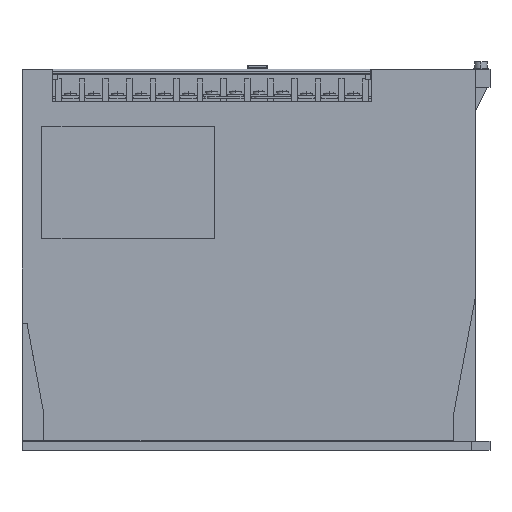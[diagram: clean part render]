
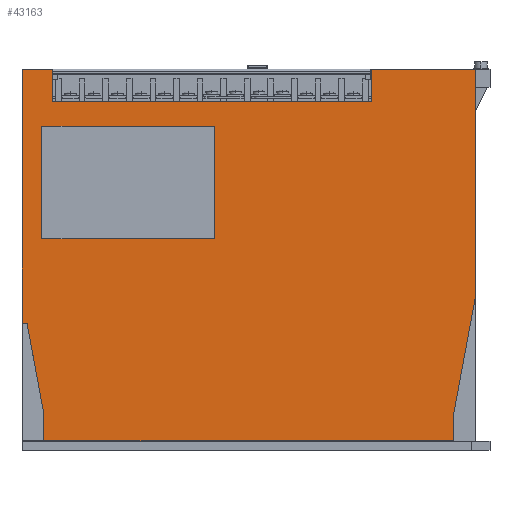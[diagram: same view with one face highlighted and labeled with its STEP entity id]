
A CAD part, left-side view. The second image highlights one B-rep face of the part: STEP entity #43163.
In plain terms, the highlighted planar face has unit normal (-1, 0, 0).
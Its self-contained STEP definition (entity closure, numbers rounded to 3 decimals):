
#1373=DIRECTION('',(0.,0.,1.));
#1374=VECTOR('',#1373,125.);
#1375=CARTESIAN_POINT('',(0.,0.,85.));
#1376=LINE('',#1375,#1374);
#1417=DIRECTION('',(0.,1.,0.));
#1418=VECTOR('',#1417,57.4);
#1419=CARTESIAN_POINT('',(0.,0.,210.));
#1420=LINE('',#1419,#1418);
#1425=DIRECTION('',(0.,1.,0.));
#1426=VECTOR('',#1425,16.7);
#1427=CARTESIAN_POINT('',(0.,233.3,210.));
#1428=LINE('',#1427,#1426);
#5065=DIRECTION('',(0.,0.,-1.));
#5066=VECTOR('',#5065,140.);
#5067=CARTESIAN_POINT('',(0.,250.,210.));
#5068=LINE('',#5067,#5066);
#5097=DIRECTION('',(0.,-1.,0.));
#5098=VECTOR('',#5097,226.);
#5099=CARTESIAN_POINT('',(0.,238.,5.1));
#5100=LINE('',#5099,#5098);
#6429=DIRECTION('',(0.,0.,1.));
#6430=VECTOR('',#6429,14.9);
#6431=CARTESIAN_POINT('',(0.,238.,5.1));
#6432=LINE('',#6431,#6430);
#6433=DIRECTION('',(0.,0.182,0.983));
#6434=VECTOR('',#6433,50.746);
#6435=CARTESIAN_POINT('',(0.,238.,20.));
#6436=LINE('',#6435,#6434);
#6437=DIRECTION('',(0.,0.999,0.035));
#6438=VECTOR('',#6437,2.789);
#6439=CARTESIAN_POINT('',(0.,247.213,69.903));
#6440=LINE('',#6439,#6438);
#6441=DIRECTION('',(0.,-1.,0.));
#6442=VECTOR('',#6441,175.9);
#6443=CARTESIAN_POINT('',(0.,233.3,192.157));
#6444=LINE('',#6443,#6442);
#6445=DIRECTION('',(0.,0.,1.));
#6446=VECTOR('',#6445,17.843);
#6447=CARTESIAN_POINT('',(0.,57.4,192.157));
#6448=LINE('',#6447,#6446);
#6449=DIRECTION('',(0.,0.182,-0.983));
#6450=VECTOR('',#6449,66.098);
#6451=CARTESIAN_POINT('',(0.,0.,85.));
#6452=LINE('',#6451,#6450);
#6453=DIRECTION('',(0.,0.,-1.));
#6454=VECTOR('',#6453,14.9);
#6455=CARTESIAN_POINT('',(0.,12.,20.));
#6456=LINE('',#6455,#6454);
#6457=DIRECTION('',(0.,-1.,0.));
#6458=VECTOR('',#6457,95.);
#6459=CARTESIAN_POINT('',(0.,239.,116.5));
#6460=LINE('',#6459,#6458);
#6508=DIRECTION('',(0.,0.,1.));
#6509=VECTOR('',#6508,17.843);
#6510=CARTESIAN_POINT('',(0.,233.3,192.157));
#6511=LINE('',#6510,#6509);
#13551=DIRECTION('',(0.,0.,1.));
#13552=VECTOR('',#13551,62.);
#13553=CARTESIAN_POINT('',(0.,239.,116.5));
#13554=LINE('',#13553,#13552);
#13559=DIRECTION('',(0.,-1.,0.));
#13560=VECTOR('',#13559,95.);
#13561=CARTESIAN_POINT('',(0.,239.,178.5));
#13562=LINE('',#13561,#13560);
#13567=DIRECTION('',(0.,0.,-1.));
#13568=VECTOR('',#13567,62.);
#13569=CARTESIAN_POINT('',(0.,144.,178.5));
#13570=LINE('',#13569,#13568);
#24996=CARTESIAN_POINT('',(0.,0.,85.));
#24997=VERTEX_POINT('',#24996);
#24998=CARTESIAN_POINT('',(0.,0.,210.));
#24999=VERTEX_POINT('',#24998);
#25061=CARTESIAN_POINT('',(0.,57.4,210.));
#25062=VERTEX_POINT('',#25061);
#25067=CARTESIAN_POINT('',(0.,233.3,210.));
#25068=VERTEX_POINT('',#25067);
#25069=CARTESIAN_POINT('',(0.,250.,210.));
#25070=VERTEX_POINT('',#25069);
#25171=CARTESIAN_POINT('',(0.,250.,70.));
#25172=VERTEX_POINT('',#25171);
#25183=CARTESIAN_POINT('',(0.,238.,5.1));
#25184=VERTEX_POINT('',#25183);
#25185=CARTESIAN_POINT('',(0.,238.,20.));
#25186=VERTEX_POINT('',#25185);
#25193=CARTESIAN_POINT('',(0.,12.,5.1));
#25194=VERTEX_POINT('',#25193);
#25572=CARTESIAN_POINT('',(0.,12.,20.));
#25573=VERTEX_POINT('',#25572);
#25592=CARTESIAN_POINT('',(0.,247.213,69.903));
#25593=VERTEX_POINT('',#25592);
#25594=CARTESIAN_POINT('',(0.,233.3,192.157));
#25595=VERTEX_POINT('',#25594);
#25596=CARTESIAN_POINT('',(0.,57.4,192.157));
#25597=VERTEX_POINT('',#25596);
#25598=CARTESIAN_POINT('',(0.,239.,116.5));
#25599=CARTESIAN_POINT('',(0.,144.,116.5));
#25600=VERTEX_POINT('',#25598);
#25601=VERTEX_POINT('',#25599);
#25602=CARTESIAN_POINT('',(0.,144.,178.5));
#25603=VERTEX_POINT('',#25602);
#25604=CARTESIAN_POINT('',(0.,239.,178.5));
#25605=VERTEX_POINT('',#25604);
#43127=CARTESIAN_POINT('',(0.,250.,0.));
#43128=DIRECTION('',(-1.,0.,0.));
#43129=DIRECTION('',(0.,-1.,0.));
#43130=AXIS2_PLACEMENT_3D('',#43127,#43128,#43129);
#43131=PLANE('',#43130);
#43132=ORIENTED_EDGE('',*,*,#40740,.F.);
#43133=ORIENTED_EDGE('',*,*,#40716,.T.);
#43135=ORIENTED_EDGE('',*,*,#43134,.T.);
#43137=ORIENTED_EDGE('',*,*,#43136,.T.);
#43138=ORIENTED_EDGE('',*,*,#40664,.F.);
#43139=ORIENTED_EDGE('',*,*,#33194,.F.);
#43141=ORIENTED_EDGE('',*,*,#43140,.F.);
#43143=ORIENTED_EDGE('',*,*,#43142,.T.);
#43145=ORIENTED_EDGE('',*,*,#43144,.T.);
#43146=ORIENTED_EDGE('',*,*,#33186,.F.);
#43147=ORIENTED_EDGE('',*,*,#33074,.F.);
#43149=ORIENTED_EDGE('',*,*,#43148,.T.);
#43150=ORIENTED_EDGE('',*,*,#43092,.T.);
#43151=EDGE_LOOP('',(#43132,#43133,#43135,#43137,#43138,#43139,#43141,#43143,
#43145,#43146,#43147,#43149,#43150));
#43152=FACE_OUTER_BOUND('',#43151,.F.);
#43154=ORIENTED_EDGE('',*,*,#43153,.T.);
#43156=ORIENTED_EDGE('',*,*,#43155,.F.);
#43158=ORIENTED_EDGE('',*,*,#43157,.F.);
#43160=ORIENTED_EDGE('',*,*,#43159,.F.);
#43161=EDGE_LOOP('',(#43154,#43156,#43158,#43160));
#43162=FACE_BOUND('',#43161,.F.);
#33074=EDGE_CURVE('',#24997,#24999,#1376,.T.);
#33186=EDGE_CURVE('',#24999,#25062,#1420,.T.);
#33194=EDGE_CURVE('',#25068,#25070,#1428,.T.);
#40664=EDGE_CURVE('',#25070,#25172,#5068,.T.);
#40716=EDGE_CURVE('',#25184,#25186,#6432,.T.);
#40740=EDGE_CURVE('',#25184,#25194,#5100,.T.);
#43092=EDGE_CURVE('',#25573,#25194,#6456,.T.);
#43134=EDGE_CURVE('',#25186,#25593,#6436,.T.);
#43136=EDGE_CURVE('',#25593,#25172,#6440,.T.);
#43140=EDGE_CURVE('',#25595,#25068,#6511,.T.);
#43142=EDGE_CURVE('',#25595,#25597,#6444,.T.);
#43144=EDGE_CURVE('',#25597,#25062,#6448,.T.);
#43148=EDGE_CURVE('',#24997,#25573,#6452,.T.);
#43153=EDGE_CURVE('',#25600,#25601,#6460,.T.);
#43155=EDGE_CURVE('',#25603,#25601,#13570,.T.);
#43157=EDGE_CURVE('',#25605,#25603,#13562,.T.);
#43159=EDGE_CURVE('',#25600,#25605,#13554,.T.);
#43163=ADVANCED_FACE('',(#43152,#43162),#43131,.T.);
